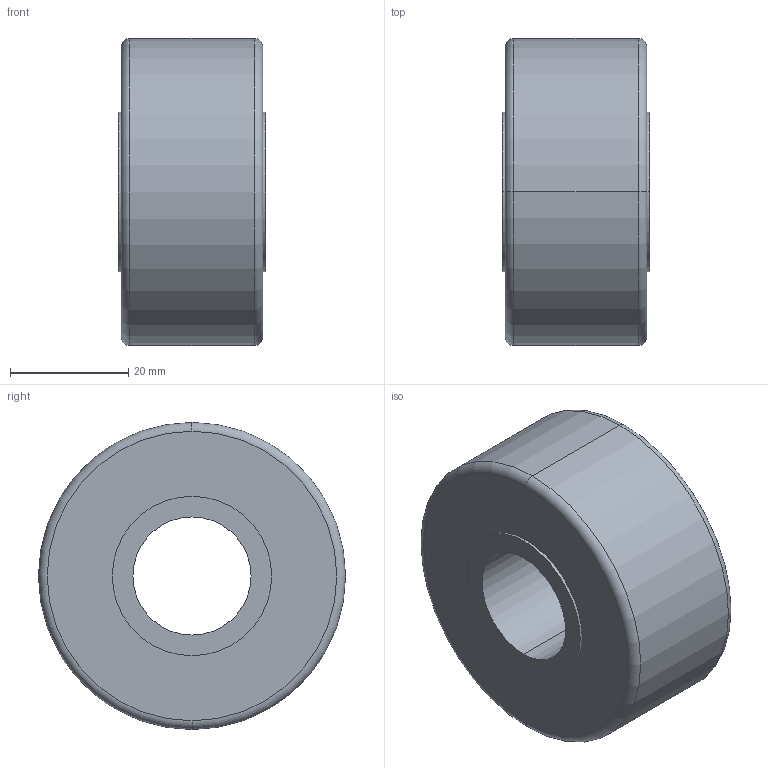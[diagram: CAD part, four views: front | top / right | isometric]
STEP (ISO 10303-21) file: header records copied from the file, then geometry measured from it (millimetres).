
FILE_DESCRIPTION (( 'STEP AP214' ), '1' );
FILE_NAME ('3DNUTR20-52.STEP', '2013-12-18T09:04:05', ( 'usuario' ), ( 'Hewlett-Packard Company' ), 'SwSTEP 2.0', 'SolidWorks 2017', '' );
FILE_SCHEMA (( 'AUTOMOTIVE_DESIGN' ));
Length unit declared in the file: millimetre
Products named in the file (1): 3DNUTR20-52
Bounding box: 25 x 52 x 52 mm (x, y, z)
Volume: 43532 mm3; surface area: 8983.1 mm2
Topology: 1 solids, 1 shells, 16 faces, 32 edges, 20 vertices
Faces by surface type: cylinder 8, torus 4, plane 4
Entity records: 466 total; most frequent: DIRECTION 90, CARTESIAN_POINT 69, ORIENTED_EDGE 64, AXIS2_PLACEMENT_3D 41, EDGE_CURVE 32, CIRCLE 24, EDGE_LOOP 20, VERTEX_POINT 20
